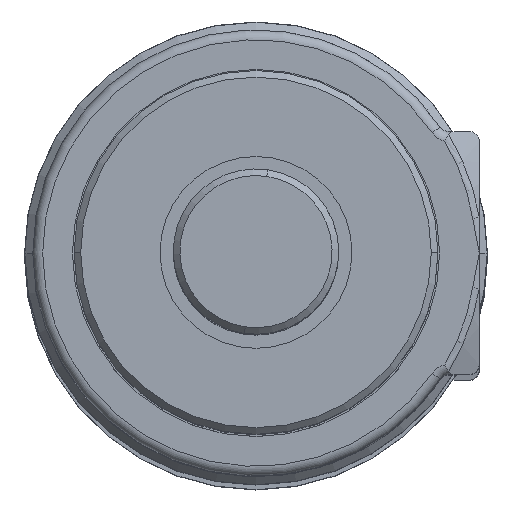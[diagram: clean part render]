
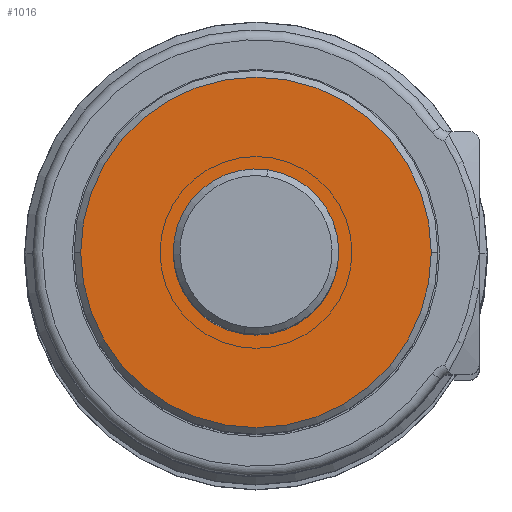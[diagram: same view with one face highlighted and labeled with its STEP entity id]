
A CAD part, top view. The second image highlights one B-rep face of the part: STEP entity #1016.
In plain terms, the highlighted planar face has unit normal (0, 0, 1) as drawn and (0, 0, -1) by its records, which use the part's own axes.
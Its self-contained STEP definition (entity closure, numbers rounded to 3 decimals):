
#57 = CARTESIAN_POINT ( 'NONE',  ( 0., 0., 0. ) ) ;
#667 = DIRECTION ( 'NONE',  ( 1., 0., 0. ) ) ;
#787 = FACE_OUTER_BOUND ( 'NONE', #3705, .T. ) ;
#850 = DIRECTION ( 'NONE',  ( 0., 0., -1. ) ) ;
#1016 = ADVANCED_FACE ( 'NONE', ( #787, #5828 ), #1834, .F. ) ;
#1324 = CIRCLE ( 'NONE', #1865, 10.6 ) ;
#1570 = CARTESIAN_POINT ( 'NONE',  ( -5., 0., 0. ) ) ;
#1632 = AXIS2_PLACEMENT_3D ( 'NONE', #5348, #3029, #7083 ) ;
#1834 = PLANE ( 'NONE',  #1632 ) ;
#1865 = AXIS2_PLACEMENT_3D ( 'NONE', #57, #4183, #667 ) ;
#1955 = DIRECTION ( 'NONE',  ( 0., 0., -1. ) ) ;
#2385 = VERTEX_POINT ( 'NONE', #5919 ) ;
#3026 = VERTEX_POINT ( 'NONE', #3960 ) ;
#3029 = DIRECTION ( 'NONE',  ( 0., 0., 1. ) ) ;
#3209 = DIRECTION ( 'NONE',  ( 0., 0., -1. ) ) ;
#3705 = EDGE_LOOP ( 'NONE', ( #5200, #4061 ) ) ;
#3960 = CARTESIAN_POINT ( 'NONE',  ( 10.6, 0., 0. ) ) ;
#4061 = ORIENTED_EDGE ( 'NONE', *, *, #4642, .T. ) ;
#4183 = DIRECTION ( 'NONE',  ( 0., 0., -1. ) ) ;
#4353 = CARTESIAN_POINT ( 'NONE',  ( 0., 0., 0. ) ) ;
#4440 = EDGE_LOOP ( 'NONE', ( #4787, #4576 ) ) ;
#4576 = ORIENTED_EDGE ( 'NONE', *, *, #7164, .F. ) ;
#4598 = CIRCLE ( 'NONE', #5265, 10.6 ) ;
#4642 = EDGE_CURVE ( 'NONE', #2385, #3026, #1324, .T. ) ;
#4787 = ORIENTED_EDGE ( 'NONE', *, *, #5642, .F. ) ;
#4871 = AXIS2_PLACEMENT_3D ( 'NONE', #4353, #850, #4941 ) ;
#4883 = CIRCLE ( 'NONE', #5742, 5. ) ;
#4941 = DIRECTION ( 'NONE',  ( -1., 0., 0. ) ) ;
#5200 = ORIENTED_EDGE ( 'NONE', *, *, #7174, .T. ) ;
#5265 = AXIS2_PLACEMENT_3D ( 'NONE', #6689, #3209, #7248 ) ;
#5348 = CARTESIAN_POINT ( 'NONE',  ( 0., 0., 0. ) ) ;
#5461 = CARTESIAN_POINT ( 'NONE',  ( 0., 0., 0. ) ) ;
#5642 = EDGE_CURVE ( 'NONE', #5847, #7176, #4883, .T. ) ;
#5742 = AXIS2_PLACEMENT_3D ( 'NONE', #5461, #1955, #6045 ) ;
#5828 = FACE_BOUND ( 'NONE', #4440, .T. ) ;
#5847 = VERTEX_POINT ( 'NONE', #1570 ) ;
#5919 = CARTESIAN_POINT ( 'NONE',  ( -10.6, 0., 0. ) ) ;
#6045 = DIRECTION ( 'NONE',  ( -1., 0., 0. ) ) ;
#6104 = CARTESIAN_POINT ( 'NONE',  ( 5., 0., 0. ) ) ;
#6689 = CARTESIAN_POINT ( 'NONE',  ( 0., 0., 0. ) ) ;
#7083 = DIRECTION ( 'NONE',  ( 1., 0., 0. ) ) ;
#7111 = CIRCLE ( 'NONE', #4871, 5. ) ;
#7164 = EDGE_CURVE ( 'NONE', #7176, #5847, #7111, .T. ) ;
#7174 = EDGE_CURVE ( 'NONE', #3026, #2385, #4598, .T. ) ;
#7176 = VERTEX_POINT ( 'NONE', #6104 ) ;
#7248 = DIRECTION ( 'NONE',  ( 1., 0., 0. ) ) ;
